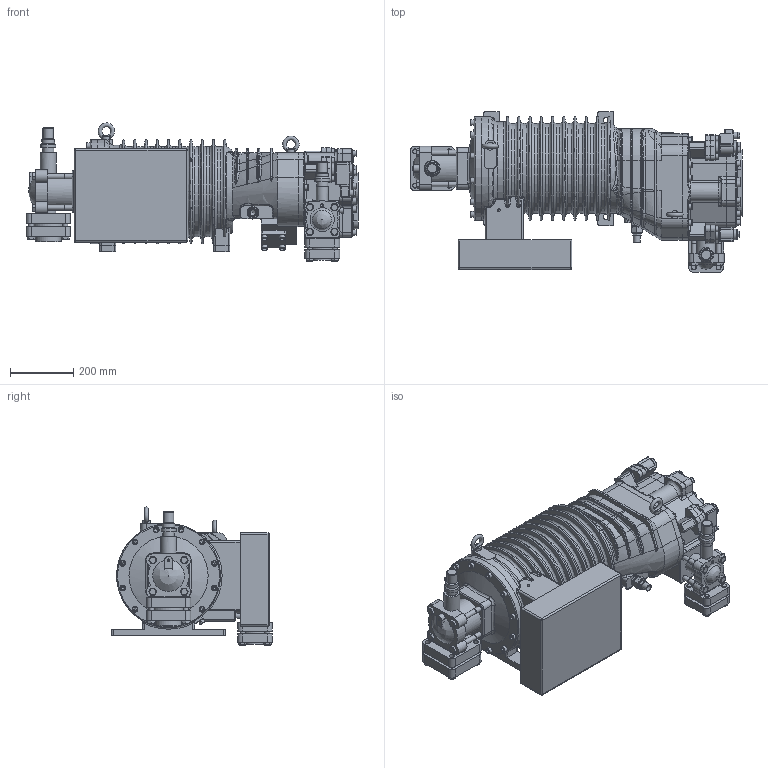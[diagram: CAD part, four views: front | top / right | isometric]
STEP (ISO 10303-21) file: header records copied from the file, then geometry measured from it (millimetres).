
FILE_DESCRIPTION((''),'2;1');
FILE_NAME('\\Romashchenko\Общая папка\HSN7471-75.stp','2011-02-09T12:35:07',(' '),(''),'Autodesk Inventor 2008','Autodesk Inventor 2008','');
FILE_SCHEMA(('AUTOMOTIVE_DESIGN { 1 0 10303 214 1 1 1 1 }'));
Length unit declared in the file: millimetre
Products named in the file (27): HSN7471-75; HSN7471-75 КРЫШКА_ЗАДНЯЯ; HSN7471-75 КРЫШКА_ПЕРЕДНЯЯ; HSN7471-75 ПЕРЕХОДНИК; HSN7471-75 СОЛЕНОИД; HSN7471-75 КАТУШКА_SR; ВЕНТИЛЬBITZER_2_1Z8; ВЕНТИЛЬBITZER_2_1Z8 КОРПУСBITZER_2_1Z8; ВЕНТИЛЬBITZER_2_1Z8 КОЛПАЧЕК; ВЕНТИЛЬBITZER_2_1Z8 ФЛАНЕЦ; ВЕНТИЛЬBITZER_2_1Z8 ШТУЦЕР_54; ВЕНТИЛЬBITZER_2_1Z8 БОЛТ - ГОСТ 7796-70 - M 16X100; ВЕНТИЛЬBITZER_2_1Z8 БОЛТ - ГОСТ 7796-70 - M 16X65; HSN7471-75 КОРПУС; HSN7471-75 ШТУЦЕР_138; HSN7471-75 ГАЙКА_НАКИДНАЯ_М30; HSN7471-75 ШТУЦЕР_34; HSN7471-75 КОРОБКА; HSN7471-75 РЫМБОЛТ; HSN7471-75 БОЛТ - ГОСТ 11738-84 - M 12X25; ВЕНТИЛЬBITZER_3_1Z8; ВЕНТИЛЬBITZER_3_1Z8 КОРПУСBITZER_2_1Z8; ВЕНТИЛЬBITZER_3_1Z8 КОЛПАЧЕК; ВЕНТИЛЬBITZER_3_1Z8 ФЛАНЕЦ; ВЕНТИЛЬBITZER_3_1Z8 ШТУЦЕР_54; ВЕНТИЛЬBITZER_3_1Z8 БОЛТ - ГОСТ 7796-70 - M 16X65; ВЕНТИЛЬBITZER_3_1Z8 БОЛТ - ГОСТ 7796-70 - M 16X130
Assembly tree (88 placements, depth 3):
  HSN7471-75
    HSN7471-75 КРЫШКА_ЗАДНЯЯ
    HSN7471-75 КРЫШКА_ПЕРЕДНЯЯ
    HSN7471-75 ПЕРЕХОДНИК
    HSN7471-75 СОЛЕНОИД  x2
    HSN7471-75 КАТУШКА_SR  x2
    ВЕНТИЛЬBITZER_2_1Z8
      ВЕНТИЛЬBITZER_2_1Z8 КОРПУСBITZER_2_1Z8
      ВЕНТИЛЬBITZER_2_1Z8 КОЛПАЧЕК
      ВЕНТИЛЬBITZER_2_1Z8 ФЛАНЕЦ
      ВЕНТИЛЬBITZER_2_1Z8 ШТУЦЕР_54
      ВЕНТИЛЬBITZER_2_1Z8 БОЛТ - ГОСТ 7796-70 - M 16X100  x4
      ВЕНТИЛЬBITZER_2_1Z8 БОЛТ - ГОСТ 7796-70 - M 16X65  x4
    HSN7471-75 КОРПУС
    HSN7471-75 ШТУЦЕР_138
    HSN7471-75 ГАЙКА_НАКИДНАЯ_М30
    HSN7471-75 ШТУЦЕР_34
    HSN7471-75 КОРОБКА
    HSN7471-75 РЫМБОЛТ  x2
    HSN7471-75 БОЛТ - ГОСТ 11738-84 - M 12X25  x48
    ВЕНТИЛЬBITZER_3_1Z8
      ВЕНТИЛЬBITZER_3_1Z8 КОРПУСBITZER_2_1Z8
      ВЕНТИЛЬBITZER_3_1Z8 КОЛПАЧЕК
      ВЕНТИЛЬBITZER_3_1Z8 ФЛАНЕЦ
      ВЕНТИЛЬBITZER_3_1Z8 ШТУЦЕР_54
      ВЕНТИЛЬBITZER_3_1Z8 БОЛТ - ГОСТ 7796-70 - M 16X65  x4
      ВЕНТИЛЬBITZER_3_1Z8 БОЛТ - ГОСТ 7796-70 - M 16X130  x4
Bounding box: 1048 x 508 x 435.9 mm (x, y, z)
Volume: 75018684.5 mm3; surface area: 3064621.3 mm2
Topology: 86 solids, 86 shells, 2307 faces, 5364 edges, 3358 vertices
Faces by surface type: plane 1033, cylinder 556, bspline 374, cone 254, torus 71, sphere 19
Full cylindrical faces by diameter (mm): 10 x11, 12 x96, 15 x2, 16 x32, 18 x48, 21 x2, 22 x2, 25 x4, 26 x1, 28 x1, 29 x1, 30 x2, 33 x2, 34 x2, 36 x2, 37 x1, 40 x4, 47 x2, 50 x1, 58 x1, 64 x1, 80 x1, 82 x1, 100 x1, 110 x1, 284 x7, 328 x2
Entity records: 55973 total; most frequent: CARTESIAN_POINT 28211, DIRECTION 5450, ORIENTED_EDGE 5384, EDGE_CURVE 2692, AXIS2_PLACEMENT_3D 2222, VERTEX_POINT 1792, EDGE_LOOP 1654, FACE_OUTER_BOUND 1223
